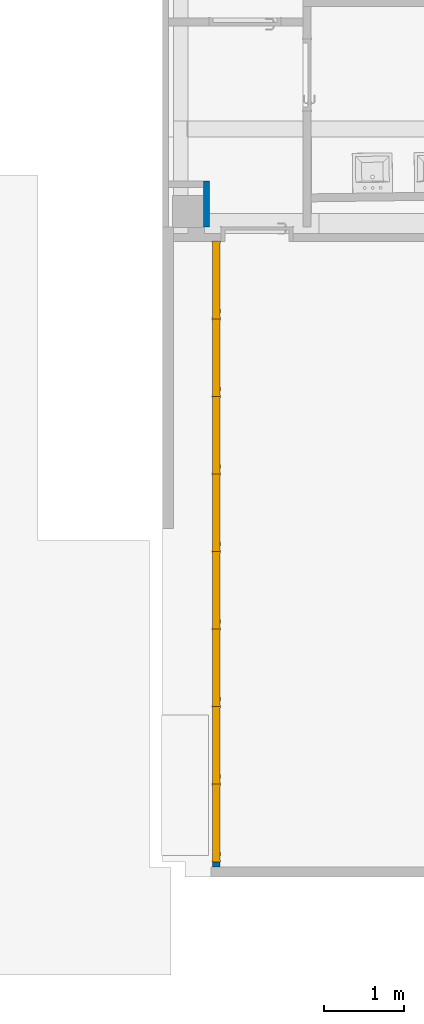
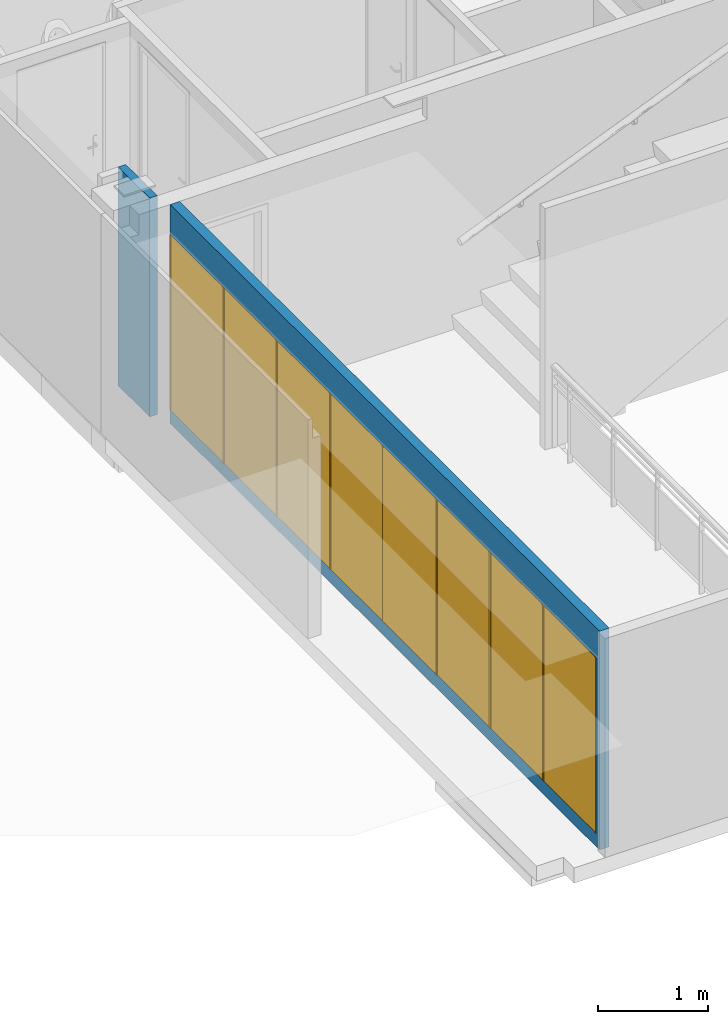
# One storey, part 3 of 32: 8 doors, 2 walls, 8 openings.
"""IFC4 building model written with IfcOpenShell, lengths in metres."""

import ifcopenshell
import ifcopenshell.guid

model = None  # the IFC model being written
_history = None  # IfcOwnerHistory: only IFC2X3 demands one
_inside = {}  # id of a spatial element -> (the spatial element, [elements in it])
_under = {}  # id of a project, library or spatial element -> (it, [spatial elements below it])
_declared = {}  # id of a project -> (the project, [libraries it declares])
_typed = {}  # id of a type object -> (the type object, [elements of that type])
_made_of = {}  # id of a material, layer set ... -> (it, [elements and type objects made of it])


def new_model(schema):
    """Start an empty IFC model of exactly this schema.

    Asked for "IFC4X3", IfcOpenShell would pick the latest addendum, in which some entities
    have other attributes; the version numbers below select the first issue.
    IFC2X3 requires an IfcOwnerHistory on every rooted entity: one is made here for all.
    """
    global model, _history
    if schema == "IFC4X3":
        model = ifcopenshell.file(schema_version=(4, 3, 0, 0))
    else:
        model = ifcopenshell.file(schema=schema)
    _inside.clear()
    _under.clear()
    _declared.clear()
    _typed.clear()
    _made_of.clear()
    _history = None
    if model.schema == "IFC2X3":
        org = make("IfcOrganization", Name="unknown")
        user = make(
            "IfcPersonAndOrganization",
            ThePerson=make("IfcPerson", FamilyName="unknown"),
            TheOrganization=org,
        )
        app = make(
            "IfcApplication",
            ApplicationDeveloper=org,
            Version="unknown",
            ApplicationFullName="unknown",
            ApplicationIdentifier="unknown",
        )
        _history = make(
            "IfcOwnerHistory",
            OwningUser=user,
            OwningApplication=app,
            ChangeAction="ADDED",
            CreationDate=0,
        )
    return model


def make(cls, **values):
    """One entity of the class cls with the attributes given. An attribute that is None is left unset."""
    return model.create_entity(
        cls, **{name: value for name, value in values.items() if value is not None}
    )


def entity(cls, *values):
    """Any entity or typed value of the class cls, its attributes in the order of the schema. None: left unset."""
    e = model.create_entity(cls)
    for i, value in enumerate(values):
        if value is not None:
            e[i] = value
    return e


def rooted(cls, **values):
    """An entity with a GlobalId (a new one), such as an element, a storey or a relation."""
    return make(cls, GlobalId=ifcopenshell.guid.new(), OwnerHistory=_history, **values)


def si_unit(unit_type, name, prefix=None):
    """IfcSIUnit, for example si_unit("LENGTHUNIT", "METRE", prefix="MILLI")."""
    return make("IfcSIUnit", UnitType=unit_type, Prefix=prefix, Name=name)


def converted_unit(unit_type, name, factor, base, dimensions=None, offset=None):
    """IfcConversionBasedUnit, such as the inch: factor (a typed value) times the base unit."""
    return make(
        "IfcConversionBasedUnit"
        if offset is None
        else "IfcConversionBasedUnitWithOffset",
        ConversionOffset=offset,
        Dimensions=None
        if dimensions is None
        else entity("IfcDimensionalExponents", *dimensions),
        UnitType=unit_type,
        Name=name,
        ConversionFactor=make(
            "IfcMeasureWithUnit", ValueComponent=factor, UnitComponent=base
        ),
    )


def derived_unit(unit_type, elements):
    """IfcDerivedUnit: a product of units, each with its exponent."""
    return make(
        "IfcDerivedUnit",
        Elements=[
            make("IfcDerivedUnitElement", Unit=unit, Exponent=power)
            for unit, power in elements
        ],
        UnitType=unit_type,
    )


def assignment(units):
    """IfcUnitAssignment: the units of a project."""
    return None if units is None else make("IfcUnitAssignment", Units=units)


def point(xyz):
    """IfcCartesianPoint."""
    return None if xyz is None else make("IfcCartesianPoint", Coordinates=xyz)


def direction(xyz):
    """IfcDirection."""
    return None if xyz is None else make("IfcDirection", DirectionRatios=xyz)


def frame(location, z_axis=None, x_axis=None):
    """IfcAxis2Placement3D, a coordinate frame: its origin and axes. An axis left out is left unset."""
    return make(
        "IfcAxis2Placement3D",
        Location=point(location),
        Axis=direction(z_axis),
        RefDirection=direction(x_axis),
    )


def origin():
    """The frame at (0, 0, 0) with its axes left unset."""
    return frame((0.0, 0.0, 0.0))


def place(relative_to, where):
    """IfcLocalPlacement: puts the frame where relative to a parent placement (None: the world)."""
    return make(
        "IfcLocalPlacement", PlacementRelTo=relative_to, RelativePlacement=where
    )


def context(
    kind, dimensions, precision=None, world=None, true_north=None, identifier=None
):
    """IfcGeometricRepresentationContext, for example the 3D "Model" context."""
    return make(
        "IfcGeometricRepresentationContext",
        ContextIdentifier=identifier,
        ContextType=kind,
        CoordinateSpaceDimension=dimensions,
        Precision=precision,
        WorldCoordinateSystem=world,
        TrueNorth=true_north,
    )


def subcontext(parent, identifier, kind, view, scale=None):
    """IfcGeometricRepresentationSubContext, for example "Body" below "Model"."""
    return make(
        "IfcGeometricRepresentationSubContext",
        ContextIdentifier=identifier,
        ContextType=kind,
        ParentContext=parent,
        TargetScale=scale,
        TargetView=view,
    )


def project(units=None, contexts=None):
    """IfcProject with its units and contexts."""
    return rooted(
        "IfcProject",
        Name="project",
        RepresentationContexts=contexts,
        UnitsInContext=assignment(units),
    )


def spatial(cls, under=None, at=None, **own):
    """A site, building, storey or space (cls), placed at a placement, below another one or the project."""
    s = rooted(cls, ObjectPlacement=at, **own)
    if under is not None:
        _under.setdefault(under.id(), (under, []))[1].append(s)
    return s


def point_list(points):
    """IfcCartesianPointList2D or 3D."""
    cls = (
        "IfcCartesianPointList2D" if len(points[0]) == 2 else "IfcCartesianPointList3D"
    )
    return make(cls, CoordList=points)


def indexed_curve(points, segments=None, self_intersect=None):
    """IfcIndexedPolyCurve: lines and arcs through numbered points (the first is 1)."""
    return make(
        "IfcIndexedPolyCurve",
        Points=point_list(points),
        Segments=segments,
        SelfIntersect=self_intersect,
    )


def outline(outer, holes=None, kind="AREA"):
    """IfcArbitraryClosedProfileDef: a profile drawn as a closed curve; with holes, ...WithVoids."""
    if holes is None:
        return make("IfcArbitraryClosedProfileDef", ProfileType=kind, OuterCurve=outer)
    return make(
        "IfcArbitraryProfileDefWithVoids",
        ProfileType=kind,
        OuterCurve=outer,
        InnerCurves=holes,
    )


def extrude(swept, where, along, depth):
    """IfcExtrudedAreaSolid: the profile swept, set in the frame where, extruded along a direction by depth."""
    return make(
        "IfcExtrudedAreaSolid",
        SweptArea=swept,
        Position=where,
        ExtrudedDirection=direction(along),
        Depth=depth,
    )


def polygons(points, faces, closed=None, point_numbers=None):
    """IfcPolygonalFaceSet: a face is its outer loop, then its inner loops; points numbered from 1."""
    made = []
    for loops in faces:
        if len(loops) == 1:
            made.append(make("IfcIndexedPolygonalFace", CoordIndex=loops[0]))
        else:
            made.append(
                make(
                    "IfcIndexedPolygonalFaceWithVoids",
                    CoordIndex=loops[0],
                    InnerCoordIndices=loops[1:],
                )
            )
    return make(
        "IfcPolygonalFaceSet",
        Coordinates=point_list(points),
        Closed=closed,
        Faces=made,
        PnIndex=point_numbers,
    )


def shape(context_of_items, identifier, shape_type, items):
    """IfcShapeRepresentation: the items that make up one representation, for example the "Body"."""
    return make(
        "IfcShapeRepresentation",
        ContextOfItems=context_of_items,
        RepresentationIdentifier=identifier,
        RepresentationType=shape_type,
        Items=items,
    )


def source(mapping_origin, context_of_items, identifier, shape_type, items):
    """IfcRepresentationMap: a shape defined once, which mapped items show again and again."""
    return make(
        "IfcRepresentationMap",
        MappingOrigin=mapping_origin,
        MappedRepresentation=shape(context_of_items, identifier, shape_type, items),
    )


def transform(
    local_origin,
    x_axis=None,
    y_axis=None,
    z_axis=None,
    scale=None,
    scale2=None,
    scale3=None,
    uniform=True,
):
    """IfcCartesianTransformationOperator3D, or its non-uniform kind. x_axis, y_axis, z_axis: its Axis1, 2, 3."""
    if uniform:
        return make(
            "IfcCartesianTransformationOperator3D",
            Axis1=direction(x_axis),
            Axis2=direction(y_axis),
            LocalOrigin=point(local_origin),
            Scale=scale,
            Axis3=direction(z_axis),
        )
    return make(
        "IfcCartesianTransformationOperator3DnonUniform",
        Axis1=direction(x_axis),
        Axis2=direction(y_axis),
        LocalOrigin=point(local_origin),
        Scale=scale,
        Axis3=direction(z_axis),
        Scale2=scale2,
        Scale3=scale3,
    )


def mapped(mapping_source, mapping_target):
    """IfcMappedItem: shows the shape of a source again, moved by a transform."""
    return make(
        "IfcMappedItem", MappingSource=mapping_source, MappingTarget=mapping_target
    )


def material(Name=None, Category=None):
    """IfcMaterial."""
    return make("IfcMaterial", Name=Name, Category=Category)


def material_list(materials):
    """IfcMaterialList."""
    return make("IfcMaterialList", Materials=materials)


def layer(
    of_material, thickness, ventilated=None, Name=None, Category=None, Priority=None
):
    """IfcMaterialLayer: one layer of a wall or slab, of a material (None: an air gap)."""
    return make(
        "IfcMaterialLayer",
        Material=of_material,
        LayerThickness=thickness,
        IsVentilated=ventilated,
        Name=Name,
        Category=Category,
        Priority=Priority,
    )


def layer_set(layers, Name=None):
    """IfcMaterialLayerSet."""
    return make("IfcMaterialLayerSet", MaterialLayers=layers, LayerSetName=Name)


def constituent(of_material, Name=None, Category=None, fraction=None):
    """IfcMaterialConstituent: one of the materials an element consists of."""
    return make(
        "IfcMaterialConstituent",
        Name=Name,
        Material=of_material,
        Fraction=fraction,
        Category=Category,
    )


def constituent_set(constituents=None, Name=None):
    """IfcMaterialConstituentSet."""
    return make(
        "IfcMaterialConstituentSet", Name=Name, MaterialConstituents=constituents
    )


def made_of(thing, what):
    """Note that an element or type object is made of a material, layer set ...; save() writes the relation."""
    if what is not None:
        _made_of.setdefault(what.id(), (what, []))[1].append(thing)
    return thing


def type_object(cls, material=None, **own):
    """A type object (cls), such as IfcWallType, which elements share."""
    return made_of(rooted(cls, **own), material)


def type_shapes(of_type, sources):
    """Give a type object the sources (RepresentationMaps) that its elements show as mapped items."""
    of_type.RepresentationMaps = sources


def element(
    cls,
    number,
    at=None,
    inside=None,
    cuts=None,
    type_object=None,
    material=None,
    context=None,
    identifier="Body",
    shape_type=None,
    held_by="IfcProductDefinitionShape",
    body=None,
    shapes=None,
    **own,
):
    """One element of the class cls, such as IfcWall. Its Tag is "e" and its number.

    at: its placement. inside: the storey or other place that contains it. cuts: it is an
    opening in that element (IfcRelVoidsElement). A single representation is given by context,
    identifier, shape_type and body (its items); several are given by shapes. held_by: the class
    of the entity that holds the representations. save() writes the other relations.
    """
    e = rooted(cls, Tag="e%d" % number, ObjectPlacement=at, **own)
    if body is not None:
        shapes = [shape(context, identifier, shape_type, body)]
    if shapes is not None:
        e.Representation = make(held_by, Representations=shapes)
    if inside is not None:
        _inside.setdefault(inside.id(), (inside, []))[1].append(e)
    if cuts is not None:
        rooted(
            "IfcRelVoidsElement", RelatingBuildingElement=cuts, RelatedOpeningElement=e
        )
    if type_object is not None:
        _typed.setdefault(type_object.id(), (type_object, []))[1].append(e)
    return made_of(e, material)


def fill(opening, filler):
    """IfcRelFillsElement: the door or window that sits in an opening."""
    return rooted(
        "IfcRelFillsElement",
        RelatingOpeningElement=opening,
        RelatedBuildingElement=filler,
    )


def aggregate(whole, parts):
    """IfcRelAggregates: a whole, such as a stair, and the parts it consists of."""
    return rooted("IfcRelAggregates", RelatingObject=whole, RelatedObjects=parts)


def save(model, path):
    """Write the relations noted so far, then the file.

    IfcRelAggregates (storeys below a building ...), IfcRelContainedInSpatialStructure (elements
    in a storey), IfcRelDefinesByType, IfcRelAssociatesMaterial and IfcRelDeclares: one each for
    every whole, place, type object, material and project.
    """
    for whole, parts in _under.values():
        aggregate(whole, parts)
    for where, things in _inside.values():
        rooted(
            "IfcRelContainedInSpatialStructure",
            RelatedElements=things,
            RelatingStructure=where,
        )
    for kind, things in _typed.values():
        rooted("IfcRelDefinesByType", RelatedObjects=things, RelatingType=kind)
    for what, things in _made_of.values():
        rooted("IfcRelAssociatesMaterial", RelatedObjects=things, RelatingMaterial=what)
    for by, libraries in _declared.values():
        rooted("IfcRelDeclares", RelatingContext=by, RelatedDefinitions=libraries)
    model.write(path)


model = new_model("IFC4")

# Units and contexts
model_context = context("Model", 3, precision=1e-05, world=origin(), true_north=direction((6.12303176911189e-17, 1.0)))
body_context = subcontext(model_context, "Body", "Model", "MODEL_VIEW")
ifc_project = project(units=[si_unit("LENGTHUNIT", "METRE"), si_unit("AREAUNIT", "SQUARE_METRE"), si_unit("VOLUMEUNIT", "CUBIC_METRE"), converted_unit("PLANEANGLEUNIT", "DEGREE", entity("IfcRatioMeasure", 0.0174532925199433), si_unit("PLANEANGLEUNIT", "RADIAN"), dimensions=[0, 0, 0, 0, 0, 0, 0]), si_unit("MASSUNIT", "GRAM", prefix="KILO"), derived_unit("MASSDENSITYUNIT", [(si_unit("MASSUNIT", "GRAM", prefix="KILO"), 1), (si_unit("LENGTHUNIT", "METRE"), -3)]), derived_unit("MOMENTOFINERTIAUNIT", [(si_unit("LENGTHUNIT", "METRE"), 4)]), si_unit("TIMEUNIT", "SECOND"), si_unit("FREQUENCYUNIT", "HERTZ"), si_unit("THERMODYNAMICTEMPERATUREUNIT", "DEGREE_CELSIUS"), derived_unit("THERMALTRANSMITTANCEUNIT", [(si_unit("MASSUNIT", "GRAM", prefix="KILO"), 1), (si_unit("THERMODYNAMICTEMPERATUREUNIT", "KELVIN"), -1), (si_unit("TIMEUNIT", "SECOND"), -3)]), derived_unit("VOLUMETRICFLOWRATEUNIT", [(si_unit("LENGTHUNIT", "METRE"), 3), (si_unit("TIMEUNIT", "SECOND"), -1)]), si_unit("ELECTRICCURRENTUNIT", "AMPERE"), si_unit("ELECTRICVOLTAGEUNIT", "VOLT"), si_unit("POWERUNIT", "WATT"), si_unit("FORCEUNIT", "NEWTON", prefix="KILO"), si_unit("ILLUMINANCEUNIT", "LUX"), si_unit("LUMINOUSFLUXUNIT", "LUMEN"), si_unit("LUMINOUSINTENSITYUNIT", "CANDELA"), derived_unit("USERDEFINED", [(si_unit("MASSUNIT", "GRAM", prefix="KILO"), -1), (si_unit("LENGTHUNIT", "METRE"), -2), (si_unit("TIMEUNIT", "SECOND"), 3), (si_unit("LUMINOUSFLUXUNIT", "LUMEN"), 1)]), derived_unit("LINEARVELOCITYUNIT", [(si_unit("LENGTHUNIT", "METRE"), 1), (si_unit("TIMEUNIT", "SECOND"), -1)]), si_unit("PRESSUREUNIT", "PASCAL"), derived_unit("USERDEFINED", [(si_unit("LENGTHUNIT", "METRE"), -2), (si_unit("MASSUNIT", "GRAM", prefix="KILO"), 1), (si_unit("TIMEUNIT", "SECOND"), -2)]), derived_unit("LINEARFORCEUNIT", [(si_unit("MASSUNIT", "GRAM", prefix="KILO"), 1), (si_unit("LENGTHUNIT", "METRE"), 1), (si_unit("TIMEUNIT", "SECOND"), -2), (si_unit("LENGTHUNIT", "METRE"), -1)]), derived_unit("PLANARFORCEUNIT", [(si_unit("MASSUNIT", "GRAM", prefix="KILO"), 1), (si_unit("LENGTHUNIT", "METRE"), 1), (si_unit("TIMEUNIT", "SECOND"), -2), (si_unit("LENGTHUNIT", "METRE"), -2)])], contexts=[model_context])

# Site, building, storey
site_placement = place(None, origin())
site = spatial("IfcSite", under=ifc_project, at=site_placement, Name="Default", CompositionType="ELEMENT")
building_placement = place(site_placement, origin())
building = spatial("IfcBuilding", under=site, at=building_placement, Name="HOTEL CONSULAIRE BOULOGNE SUR MER", CompositionType="ELEMENT")
storey_placement = place(building_placement, frame((0.0, 0.0, -2.70343668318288)))
storey = spatial("IfcBuildingStorey", under=building, at=storey_placement, Name="SS1", CompositionType="ELEMENT", Elevation=-2.70343668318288)

# Wall, openings, doors
ifc_material_1 = material(Name="Mur par défaut", Category="Divers")
ifc_layer_1 = layer(ifc_material_1, 0.1, Name="Mur par défaut", Category="Divers")
ifc_layer_set_1 = layer_set([ifc_layer_1], Name="Mur de base:Générique - Int. 100 mm")
wall_type_1 = type_object("IfcWallType", Name="Mur de base:Générique - Int. 100 mm", PredefinedType="NOTDEFINED", material=ifc_layer_set_1)
wall_1_placement = place(storey_placement, frame((-4.92691773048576, -27.916273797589, 0.0), z_axis=(0.0, 0.0, 1.0), x_axis=(0.0, 1.0, 0.0)))
wall_1 = element("IfcWall", 1, at=wall_1_placement, inside=storey, type_object=wall_type_1, material=ifc_layer_set_1, Name="Mur de base:Générique - Int. 100 mm", ObjectType="Mur de base:Générique - Int. 100 mm", PredefinedType="NOTDEFINED", context=body_context, shape_type="Tessellation", body=[
    polygons([(7.82135944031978, 0.0499999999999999, 2.43343668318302), (7.82135944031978, -0.0500000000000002, 2.43343668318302), (7.82135944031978, -0.0500000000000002, 2.09999999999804), (7.82135944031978, 0.0499999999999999, 2.09999999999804), (0.0, -0.0500000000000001, 0.0), (7.82135944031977, -0.0500000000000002, 0.0), (7.82135944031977, -0.0500000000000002, 0.149999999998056), (0.0626884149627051, -0.05, 0.149999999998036), (0.0626884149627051, -0.05, 2.09999999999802), (0.0, -0.0500000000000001, 2.43343668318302), (7.82135944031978, 0.0499999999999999, 0.0), (4.33146851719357e-15, 0.0499999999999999, 0.0), (0.0, 0.0499999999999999, 2.43343668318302), (0.0626884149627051, 0.05, 2.09999999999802), (0.0626884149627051, 0.05, 0.149999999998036), (7.82135944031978, 0.0499999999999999, 0.149999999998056)], [[[2, 3, 4, 1]], [[15, 14, 9, 8]], [[6, 11, 16, 7]], [[5, 6, 7, 8, 9, 3, 2, 10]], [[16, 11, 12, 13, 1, 4, 14, 15]], [[6, 5, 12, 11]], [[14, 4, 3, 9]], [[10, 2, 1, 13]], [[16, 15, 8, 7]], [[13, 12, 5, 10]]], closed=True),
])
opening_1_placement = place(wall_1_placement, frame((1.0326884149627, 0.0499999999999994, 0.149999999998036)))
opening_1 = element("IfcOpeningElement", 2, at=opening_1_placement, cuts=wall_1, Name="Verre - simple:Verre - simple:1", ObjectType="Opening", PredefinedType="OPENING", context=body_context, shape_type="SweptSolid", body=[
    extrude(outline(indexed_curve([(0.0, -9.35890757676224e-31), (1.94999999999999, -9.35890757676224e-31), (1.94999999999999, 0.97), (0.0, 0.97), (0.0, -9.35890757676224e-31)], self_intersect=False)), frame((0.0, 0.0, 0.0), z_axis=(0.0, -1.0, 0.0), x_axis=(0.0, 0.0, 1.0)), (0.0, 0.0, 1.0), 0.1),
])
opening_2_placement = place(wall_1_placement, frame((2.00268841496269, 0.0499999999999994, 0.149999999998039)))
opening_2 = element("IfcOpeningElement", 3, at=opening_2_placement, cuts=wall_1, Name="Verre - simple:Verre - simple:1", ObjectType="Opening", PredefinedType="OPENING", context=body_context, shape_type="SweptSolid", body=[
    extrude(outline(indexed_curve([(0.0, -9.35890757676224e-31), (1.94999999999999, -9.35890757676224e-31), (1.94999999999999, 0.97), (0.0, 0.97), (0.0, -9.35890757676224e-31)], self_intersect=False)), frame((0.0, 0.0, 0.0), z_axis=(0.0, -1.0, 0.0), x_axis=(0.0, 0.0, 1.0)), (0.0, 0.0, 1.0), 0.1),
])
opening_3_placement = place(wall_1_placement, frame((2.97268841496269, 0.0499999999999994, 0.149999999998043)))
opening_3 = element("IfcOpeningElement", 4, at=opening_3_placement, cuts=wall_1, Name="Verre - simple:Verre - simple:1", ObjectType="Opening", PredefinedType="OPENING", context=body_context, shape_type="SweptSolid", body=[
    extrude(outline(indexed_curve([(0.0, -9.35890757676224e-31), (1.94999999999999, -9.35890757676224e-31), (1.94999999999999, 0.97), (0.0, 0.97), (0.0, -9.35890757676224e-31)], self_intersect=False)), frame((0.0, 0.0, 0.0), z_axis=(0.0, -1.0, 0.0), x_axis=(0.0, 0.0, 1.0)), (0.0, 0.0, 1.0), 0.1),
])
opening_4_placement = place(wall_1_placement, frame((3.94268841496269, 0.0499999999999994, 0.149999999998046)))
opening_4 = element("IfcOpeningElement", 5, at=opening_4_placement, cuts=wall_1, Name="Verre - simple:Verre - simple:1", ObjectType="Opening", PredefinedType="OPENING", context=body_context, shape_type="SweptSolid", body=[
    extrude(outline(indexed_curve([(0.0, -9.35890757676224e-31), (1.94999999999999, -9.35890757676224e-31), (1.94999999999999, 0.97), (0.0, 0.97), (0.0, -9.35890757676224e-31)], self_intersect=False)), frame((0.0, 0.0, 0.0), z_axis=(0.0, -1.0, 0.0), x_axis=(0.0, 0.0, 1.0)), (0.0, 0.0, 1.0), 0.1),
])
opening_5_placement = place(wall_1_placement, frame((4.91268841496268, 0.0499999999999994, 0.149999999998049)))
opening_5 = element("IfcOpeningElement", 6, at=opening_5_placement, cuts=wall_1, Name="Verre - simple:Verre - simple:1", ObjectType="Opening", PredefinedType="OPENING", context=body_context, shape_type="SweptSolid", body=[
    extrude(outline(indexed_curve([(0.0, -9.35890757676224e-31), (1.94999999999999, -9.35890757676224e-31), (1.94999999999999, 0.97), (0.0, 0.97), (0.0, -9.35890757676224e-31)], self_intersect=False)), frame((0.0, 0.0, 0.0), z_axis=(0.0, -1.0, 0.0), x_axis=(0.0, 0.0, 1.0)), (0.0, 0.0, 1.0), 0.1),
])
opening_6_placement = place(wall_1_placement, frame((5.88268841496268, 0.0499999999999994, 0.149999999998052)))
opening_6 = element("IfcOpeningElement", 7, at=opening_6_placement, cuts=wall_1, Name="Verre - simple:Verre - simple:1", ObjectType="Opening", PredefinedType="OPENING", context=body_context, shape_type="SweptSolid", body=[
    extrude(outline(indexed_curve([(0.0, -9.35890757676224e-31), (1.94999999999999, -9.35890757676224e-31), (1.94999999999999, 0.97), (0.0, 0.97), (0.0, -9.35890757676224e-31)], self_intersect=False)), frame((0.0, 0.0, 0.0), z_axis=(0.0, -1.0, 0.0), x_axis=(0.0, 0.0, 1.0)), (0.0, 0.0, 1.0), 0.1),
])
opening_7_placement = place(wall_1_placement, frame((7.82268841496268, 0.0499999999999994, 0.149999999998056)))
opening_7 = element("IfcOpeningElement", 8, at=opening_7_placement, cuts=wall_1, Name="Verre - simple:Verre - simple:1", ObjectType="Opening", PredefinedType="OPENING", context=body_context, shape_type="SweptSolid", body=[
    extrude(outline(indexed_curve([(0.0, -9.35890757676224e-31), (1.94999999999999, -9.35890757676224e-31), (1.94999999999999, 0.97), (0.0, 0.97), (0.0, -9.35890757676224e-31)], self_intersect=False)), frame((0.0, 0.0, 0.0), z_axis=(0.0, -1.0, 0.0), x_axis=(0.0, 0.0, 1.0)), (0.0, 0.0, 1.0), 0.1),
])
opening_8_placement = place(wall_1_placement, frame((6.85268841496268, 0.0499999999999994, 0.149999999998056)))
opening_8 = element("IfcOpeningElement", 9, at=opening_8_placement, cuts=wall_1, Name="Verre - simple:Verre - simple:1", ObjectType="Opening", PredefinedType="OPENING", context=body_context, shape_type="SweptSolid", body=[
    extrude(outline(indexed_curve([(0.0, -9.35890757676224e-31), (1.94999999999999, -9.35890757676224e-31), (1.94999999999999, 0.97), (0.0, 0.97), (0.0, -9.35890757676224e-31)], self_intersect=False)), frame((0.0, 0.0, 0.0), z_axis=(0.0, -1.0, 0.0), x_axis=(0.0, 0.0, 1.0)), (0.0, 0.0, 1.0), 0.1),
])
ifc_material_2 = material(Name="Métal - Aluminium", Category="Métal")
ifc_constituent_1 = constituent(ifc_material_2, Name="Métal - Aluminium", Category="Matériaux")
ifc_material_3 = material(Name="Verre", Category="Verre")
ifc_constituent_2 = constituent(ifc_material_3, Name="Verre", Category="Matériaux")
ifc_constituent_set_1 = constituent_set(constituents=[ifc_constituent_1, ifc_constituent_2], Name="MaterialConstituentSet")
ifc_material_4 = material(Name="Porte - Poignée", Category="Métal")
ifc_material_list = material_list([ifc_material_2, ifc_material_4])
door_type = type_object("IfcDoorType", Name="Verre - simple:Verre - simple", OperationType="SINGLE_SWING_RIGHT", PredefinedType="DOOR", material=ifc_material_list)
shared_shape = source(origin(), body_context, "Body", "SweptSolid", [
    extrude(outline(indexed_curve([(-0.00999999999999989, -0.0550000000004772), (0.00999999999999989, -0.0550000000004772), (0.00999999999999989, 0.0550000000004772), (-0.00999999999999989, 0.0550000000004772), (-0.00999999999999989, -0.0550000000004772)], self_intersect=False)), frame((0.01, 0.0500000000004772, 0.0), z_axis=(0.0, 0.0, 1.0), x_axis=(-1.0, 0.0, 0.0)), (0.0, 0.0, 1.0), 1.95),
    extrude(outline(indexed_curve([(-0.01, -0.0550000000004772), (0.01, -0.0550000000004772), (0.01, 0.0550000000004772), (-0.01, 0.0550000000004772), (-0.01, -0.0550000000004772)], self_intersect=False)), frame((0.96, 0.0500000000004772, 0.0), z_axis=(0.0, 0.0, 1.0), x_axis=(-1.0, 0.0, 0.0)), (0.0, 0.0, 1.0), 1.95),
    extrude(outline(indexed_curve([(-0.465, -0.0500000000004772), (0.465, -0.0500000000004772), (0.465, 0.0500000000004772), (-0.465, 0.0500000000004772), (-0.465, -0.0500000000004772)], self_intersect=False)), frame((0.485, 0.0500000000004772, 0.0), z_axis=(0.0, 0.0, 1.0), x_axis=(-1.0, 0.0, 0.0)), (0.0, 0.0, 1.0), 1.95),
    extrude(outline(indexed_curve([(-0.0025, -0.025), (0.00249999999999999, -0.025), (0.00249999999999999, 0.025), (-0.0025, 0.025), (-0.0025, -0.025)], self_intersect=False)), frame((0.0944999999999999, -0.00249999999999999, 0.0), z_axis=(0.0, 0.0, 1.0), x_axis=(0.0, 1.0, 0.0)), (0.0, 0.0, 1.0), 0.03),
])
type_shapes(door_type, [shared_shape])
door_1_placement = place(opening_8_placement, frame((-0.969999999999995, -0.100000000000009, 0.0)))
door_1 = element("IfcDoor", 10, at=door_1_placement, inside=storey, type_object=door_type, material=ifc_constituent_set_1, Name="Verre - simple:Verre - simple", ObjectType="Verre - simple:Verre - simple", OperationType="SINGLE_SWING_RIGHT", OverallHeight=1.94999999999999, OverallWidth=0.97, PredefinedType="DOOR", context=body_context, shape_type="MappedRepresentation", body=[
    mapped(shared_shape, transform((0.0, 0.0, 0.0), scale=1.0)),
])
fill(opening_8, door_1)
ifc_constituent_3 = constituent(ifc_material_2, Name="Métal - Aluminium", Category="Matériaux")
ifc_constituent_4 = constituent(ifc_material_3, Name="Verre", Category="Matériaux")
ifc_constituent_set_2 = constituent_set(constituents=[ifc_constituent_3, ifc_constituent_4], Name="MaterialConstituentSet")
door_2_placement = place(opening_6_placement, frame((-0.969999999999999, -0.100000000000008, 0.0)))
door_2 = element("IfcDoor", 11, at=door_2_placement, inside=storey, type_object=door_type, material=ifc_constituent_set_2, Name="Verre - simple:Verre - simple", ObjectType="Verre - simple:Verre - simple", OperationType="SINGLE_SWING_RIGHT", OverallHeight=1.94999999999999, OverallWidth=0.97, PredefinedType="DOOR", context=body_context, shape_type="MappedRepresentation", body=[
    mapped(shared_shape, transform((0.0, 0.0, 0.0), scale=1.0)),
])
fill(opening_6, door_2)
ifc_constituent_5 = constituent(ifc_material_2, Name="Métal - Aluminium", Category="Matériaux")
ifc_constituent_6 = constituent(ifc_material_3, Name="Verre", Category="Matériaux")
ifc_constituent_set_3 = constituent_set(constituents=[ifc_constituent_5, ifc_constituent_6], Name="MaterialConstituentSet")
door_3_placement = place(opening_5_placement, frame((-0.969999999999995, -0.100000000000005, 0.0)))
door_3 = element("IfcDoor", 12, at=door_3_placement, inside=storey, type_object=door_type, material=ifc_constituent_set_3, Name="Verre - simple:Verre - simple", ObjectType="Verre - simple:Verre - simple", OperationType="SINGLE_SWING_RIGHT", OverallHeight=1.94999999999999, OverallWidth=0.97, PredefinedType="DOOR", context=body_context, shape_type="MappedRepresentation", body=[
    mapped(shared_shape, transform((0.0, 0.0, 0.0), scale=1.0)),
])
fill(opening_5, door_3)
ifc_constituent_7 = constituent(ifc_material_2, Name="Métal - Aluminium", Category="Matériaux")
ifc_constituent_8 = constituent(ifc_material_3, Name="Verre", Category="Matériaux")
ifc_constituent_set_4 = constituent_set(constituents=[ifc_constituent_7, ifc_constituent_8], Name="MaterialConstituentSet")
door_4_placement = place(opening_4_placement, frame((-0.969999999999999, -0.100000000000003, 0.0)))
door_4 = element("IfcDoor", 13, at=door_4_placement, inside=storey, type_object=door_type, material=ifc_constituent_set_4, Name="Verre - simple:Verre - simple", ObjectType="Verre - simple:Verre - simple", OperationType="SINGLE_SWING_RIGHT", OverallHeight=1.94999999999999, OverallWidth=0.97, PredefinedType="DOOR", context=body_context, shape_type="MappedRepresentation", body=[
    mapped(shared_shape, transform((0.0, 0.0, 0.0), scale=1.0)),
])
fill(opening_4, door_4)
ifc_constituent_9 = constituent(ifc_material_2, Name="Métal - Aluminium", Category="Matériaux")
ifc_constituent_10 = constituent(ifc_material_3, Name="Verre", Category="Matériaux")
ifc_constituent_set_5 = constituent_set(constituents=[ifc_constituent_9, ifc_constituent_10], Name="MaterialConstituentSet")
door_5_placement = place(opening_3_placement, frame((-0.969999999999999, -0.100000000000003, 0.0)))
door_5 = element("IfcDoor", 14, at=door_5_placement, inside=storey, type_object=door_type, material=ifc_constituent_set_5, Name="Verre - simple:Verre - simple", ObjectType="Verre - simple:Verre - simple", OperationType="SINGLE_SWING_RIGHT", OverallHeight=1.94999999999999, OverallWidth=0.97, PredefinedType="DOOR", context=body_context, shape_type="MappedRepresentation", body=[
    mapped(shared_shape, transform((0.0, 0.0, 0.0), scale=1.0)),
])
fill(opening_3, door_5)
ifc_constituent_11 = constituent(ifc_material_2, Name="Métal - Aluminium", Category="Matériaux")
ifc_constituent_12 = constituent(ifc_material_3, Name="Verre", Category="Matériaux")
ifc_constituent_set_6 = constituent_set(constituents=[ifc_constituent_11, ifc_constituent_12], Name="MaterialConstituentSet")
door_6_placement = place(opening_2_placement, frame((-0.969999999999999, -0.100000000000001, 0.0)))
door_6 = element("IfcDoor", 15, at=door_6_placement, inside=storey, type_object=door_type, material=ifc_constituent_set_6, Name="Verre - simple:Verre - simple", ObjectType="Verre - simple:Verre - simple", OperationType="SINGLE_SWING_RIGHT", OverallHeight=1.94999999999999, OverallWidth=0.97, PredefinedType="DOOR", context=body_context, shape_type="MappedRepresentation", body=[
    mapped(shared_shape, transform((0.0, 0.0, 0.0), scale=1.0)),
])
fill(opening_2, door_6)
ifc_constituent_13 = constituent(ifc_material_2, Name="Métal - Aluminium", Category="Matériaux")
ifc_constituent_14 = constituent(ifc_material_3, Name="Verre", Category="Matériaux")
ifc_constituent_set_7 = constituent_set(constituents=[ifc_constituent_13, ifc_constituent_14], Name="MaterialConstituentSet")
door_7_placement = place(opening_1_placement, frame((-0.969999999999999, -0.0999999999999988, 0.0)))
door_7 = element("IfcDoor", 16, at=door_7_placement, inside=storey, type_object=door_type, material=ifc_constituent_set_7, Name="Verre - simple:Verre - simple", ObjectType="Verre - simple:Verre - simple", OperationType="SINGLE_SWING_RIGHT", OverallHeight=1.94999999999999, OverallWidth=0.97, PredefinedType="DOOR", context=body_context, shape_type="MappedRepresentation", body=[
    mapped(shared_shape, transform((0.0, 0.0, 0.0), scale=1.0)),
])
fill(opening_1, door_7)
ifc_constituent_15 = constituent(ifc_material_2, Name="Métal - Aluminium", Category="Matériaux")
ifc_constituent_16 = constituent(ifc_material_3, Name="Verre", Category="Matériaux")
ifc_constituent_set_8 = constituent_set(constituents=[ifc_constituent_15, ifc_constituent_16], Name="MaterialConstituentSet")
door_8_placement = place(opening_7_placement, frame((-0.969999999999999, -0.100000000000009, 0.0)))
door_8 = element("IfcDoor", 17, at=door_8_placement, inside=storey, type_object=door_type, material=ifc_constituent_set_8, Name="Verre - simple:Verre - simple", ObjectType="Verre - simple:Verre - simple", OperationType="SINGLE_SWING_RIGHT", OverallHeight=1.94999999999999, OverallWidth=0.97, PredefinedType="DOOR", context=body_context, shape_type="MappedRepresentation", body=[
    mapped(shared_shape, transform((0.0, 0.0, 0.0), scale=1.0)),
])
fill(opening_7, door_8)

# Wall
ifc_layer_2 = layer(ifc_material_1, 0.08, Name="Mur par défaut", Category="Divers")
ifc_layer_set_2 = layer_set([ifc_layer_2], Name="Mur de base:Générique - Int. 80")
wall_type_2 = type_object("IfcWallType", Name="Mur de base:Générique - Int. 80", PredefinedType="NOTDEFINED", material=ifc_layer_set_2)
wall_2_placement = place(storey_placement, frame((-5.0482252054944, -19.9149143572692, 0.0), z_axis=(0.0, 0.0, 1.0), x_axis=(0.0, 1.0, 0.0)))
element("IfcWall", 18, at=wall_2_placement, inside=storey, type_object=wall_type_2, material=ifc_layer_set_2, Name="Mur de base:Générique - Int. 80", ObjectType="Mur de base:Générique - Int. 80", PredefinedType="NOTDEFINED", context=body_context, shape_type="SweptSolid", body=[
    extrude(outline(indexed_curve([(0.5735975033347, 0.0399999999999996), (-7.76572392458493e-17, 0.0399999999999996), (7.76572392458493e-17, -0.0399999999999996), (0.5735975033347, -0.0399999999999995), (0.5735975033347, 0.0399999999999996)], self_intersect=False)), origin(), (0.0, 0.0, 1.0), 2.43343668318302),
])

save(model, "model.ifc")
